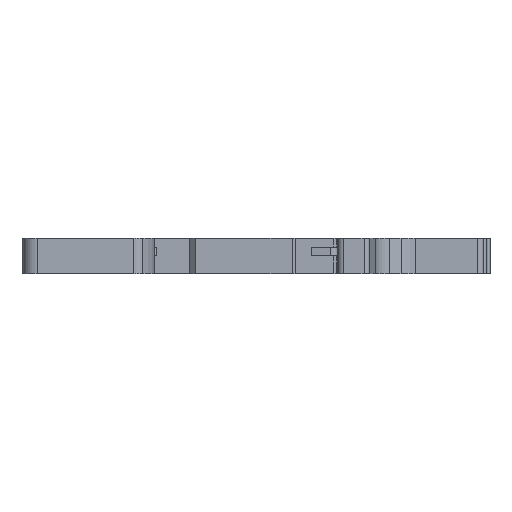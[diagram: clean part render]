
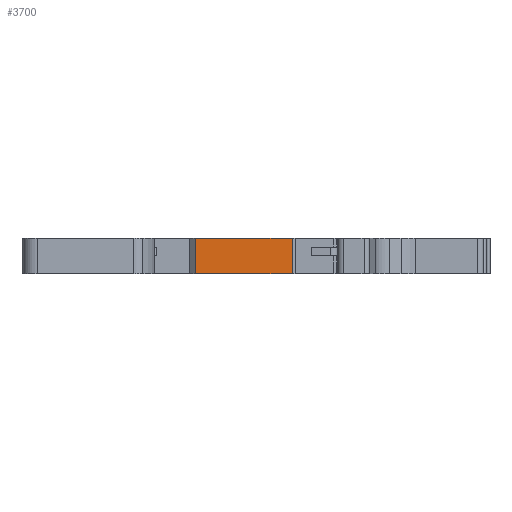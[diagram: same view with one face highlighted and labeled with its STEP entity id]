
A CAD part, front view. The second image highlights one B-rep face of the part: STEP entity #3700.
In plain terms, the highlighted planar face has unit normal (0, -1, 0).
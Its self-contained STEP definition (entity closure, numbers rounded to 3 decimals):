
#3180=CARTESIAN_POINT('',(-9.,-0.5,0.));
#3190=VERTEX_POINT('',#3180);
#3220=CARTESIAN_POINT('',(-9.,-0.5,0.));
#3230=DIRECTION('',(-0.,-0.,-1.));
#3240=VECTOR('',#3230,1.);
#3250=LINE('',#3220,#3240);
#3260=CARTESIAN_POINT('',(-9.,-0.5,-6.2));
#3270=VERTEX_POINT('',#3260);
#3280=EDGE_CURVE('',#3190,#3270,#3250,.T.);
#3400=CARTESIAN_POINT('',(8.,-0.5,0.));
#3410=DIRECTION('',(0.,1.,-0.));
#3420=DIRECTION('',(1.,0.,0.));
#3430=AXIS2_PLACEMENT_3D('',#3400,#3410,#3420);
#3440=PLANE('',#3430);
#3450=CARTESIAN_POINT('',(20.3,-0.5,0.));
#3460=DIRECTION('',(-1.,0.,0.));
#3470=VECTOR('',#3460,1.);
#3480=LINE('',#3450,#3470);
#3490=CARTESIAN_POINT('',(8.,-0.5,0.));
#3500=VERTEX_POINT('',#3490);
#3510=EDGE_CURVE('',#3500,#3190,#3480,.T.);
#3520=ORIENTED_EDGE('',*,*,#3510,.T.);
#3530=CARTESIAN_POINT('',(8.,-0.5,0.));
#3540=DIRECTION('',(-0.,-0.,-1.));
#3550=VECTOR('',#3540,1.);
#3560=LINE('',#3530,#3550);
#3570=CARTESIAN_POINT('',(8.,-0.5,-6.2));
#3580=VERTEX_POINT('',#3570);
#3590=EDGE_CURVE('',#3500,#3580,#3560,.T.);
#3600=ORIENTED_EDGE('',*,*,#3590,.F.);
#3610=CARTESIAN_POINT('',(20.3,-0.5,-6.2));
#3620=DIRECTION('',(-1.,0.,0.));
#3630=VECTOR('',#3620,1.);
#3640=LINE('',#3610,#3630);
#3650=EDGE_CURVE('',#3580,#3270,#3640,.T.);
#3660=ORIENTED_EDGE('',*,*,#3650,.F.);
#3670=ORIENTED_EDGE('',*,*,#3280,.T.);
#3680=EDGE_LOOP('',(#3670,#3660,#3600,#3520));
#3690=FACE_OUTER_BOUND('',#3680,.T.);
#3700=ADVANCED_FACE('',(#3690),#3440,.F.);
